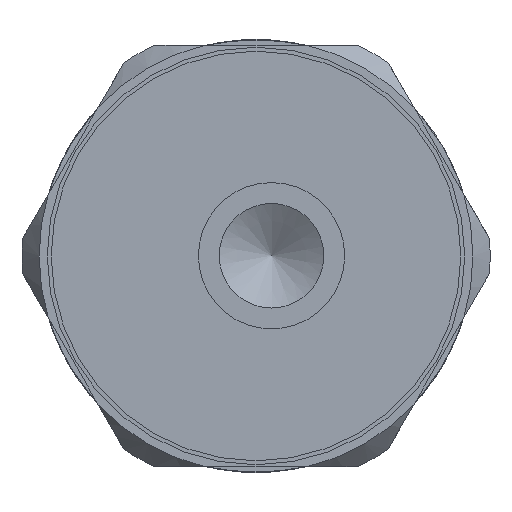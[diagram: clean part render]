
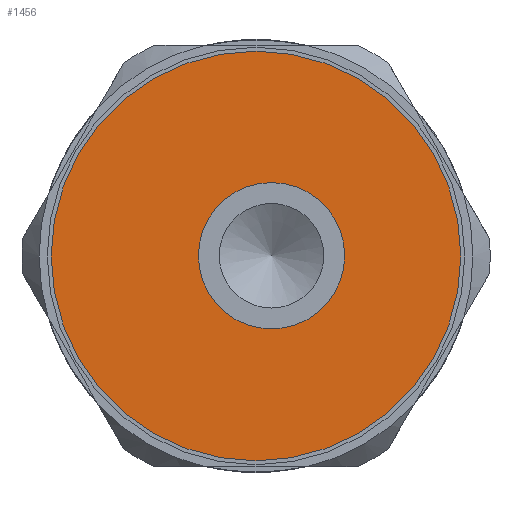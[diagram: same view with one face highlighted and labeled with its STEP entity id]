
A CAD part, left-side view. The second image highlights one B-rep face of the part: STEP entity #1456.
In plain terms, the highlighted planar face has unit normal (-1, 0, 0).
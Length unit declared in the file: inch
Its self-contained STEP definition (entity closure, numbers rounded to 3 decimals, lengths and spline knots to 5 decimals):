
#80=FACE_BOUND('',#220,.T.);
#100=PLANE('',#1592);
#138=FACE_OUTER_BOUND('',#219,.T.);
#219=EDGE_LOOP('',(#1044,#1045));
#220=EDGE_LOOP('',(#1046,#1047));
#419=CIRCLE('',#1537,0.14764);
#420=CIRCLE('',#1538,0.14764);
#449=CIRCLE('',#1593,0.41339);
#450=CIRCLE('',#1594,0.41339);
#526=VERTEX_POINT('',#2147);
#527=VERTEX_POINT('',#2148);
#580=VERTEX_POINT('',#2356);
#581=VERTEX_POINT('',#2357);
#674=EDGE_CURVE('',#526,#527,#419,.T.);
#675=EDGE_CURVE('',#527,#526,#420,.T.);
#755=EDGE_CURVE('',#580,#581,#449,.T.);
#756=EDGE_CURVE('',#581,#580,#450,.T.);
#1044=ORIENTED_EDGE('',*,*,#755,.T.);
#1045=ORIENTED_EDGE('',*,*,#756,.T.);
#1046=ORIENTED_EDGE('',*,*,#674,.T.);
#1047=ORIENTED_EDGE('',*,*,#675,.T.);
#1456=ADVANCED_FACE('',(#138,#80),#100,.T.);
#1537=AXIS2_PLACEMENT_3D('',#2149,#1725,#1726);
#1538=AXIS2_PLACEMENT_3D('',#2150,#1727,#1728);
#1592=AXIS2_PLACEMENT_3D('',#2355,#1862,#1863);
#1593=AXIS2_PLACEMENT_3D('',#2358,#1864,#1865);
#1594=AXIS2_PLACEMENT_3D('',#2359,#1866,#1867);
#1725=DIRECTION('center_axis',(1.,0.,0.));
#1726=DIRECTION('ref_axis',(0.,0.866,-0.5));
#1727=DIRECTION('center_axis',(1.,0.,0.));
#1728=DIRECTION('ref_axis',(0.,0.866,-0.5));
#1862=DIRECTION('center_axis',(-1.,0.,0.));
#1863=DIRECTION('ref_axis',(0.,0.866,-0.5));
#1864=DIRECTION('center_axis',(-1.,0.,0.));
#1865=DIRECTION('ref_axis',(0.,0.866,-0.5));
#1866=DIRECTION('center_axis',(-1.,0.,0.));
#1867=DIRECTION('ref_axis',(0.,0.866,-0.5));
#2147=CARTESIAN_POINT('',(-2.24602,0.19784,-0.27807));
#2148=CARTESIAN_POINT('',(-2.24602,-0.05787,-0.13043));
#2149=CARTESIAN_POINT('Origin',(-2.24602,0.06998,-0.20425));
#2150=CARTESIAN_POINT('Origin',(-2.24602,0.06998,-0.20425));
#2355=CARTESIAN_POINT('Origin',(-2.24602,0.1013,-0.2048));
#2356=CARTESIAN_POINT('',(-2.24602,0.4593,-0.41149));
#2357=CARTESIAN_POINT('',(-2.24602,-0.2567,0.0019));
#2358=CARTESIAN_POINT('Origin',(-2.24602,0.1013,-0.2048));
#2359=CARTESIAN_POINT('Origin',(-2.24602,0.1013,-0.2048));
